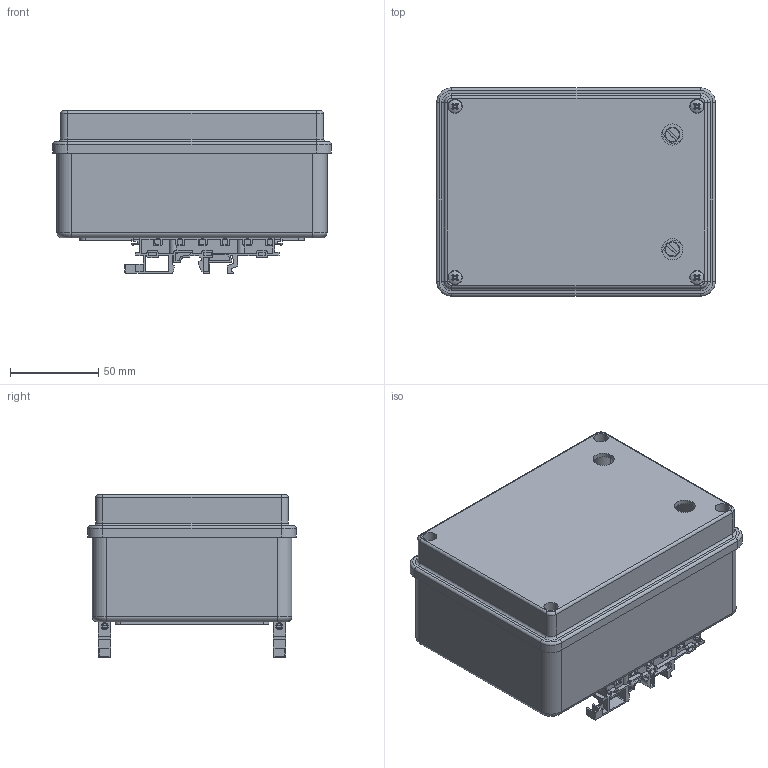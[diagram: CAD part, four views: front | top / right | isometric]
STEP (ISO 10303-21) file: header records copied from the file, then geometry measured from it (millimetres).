
FILE_DESCRIPTION(/* description */ (''),/* implementation_level */ '2;1');
FILE_NAME(/* name */ 'K:\PROJEKTY ROZPRACOVANÉ\Modely do katalogu\PI-L\3D - STEP\PI-L120.stp',/* time_stamp */ '2017-01-02T08:26:05+01:00',/* author */ ('admin'),/* organization */ (''),/* preprocessor_version */ 'ST-DEVELOPER v16.1',/* originating_system */ 'Autodesk Inventor 2016',/* authorisation */ '');
FILE_SCHEMA (('AUTOMOTIVE_DESIGN { 1 0 10303 214 3 1 1 }'));
Length unit declared in the file: millimetre
Products named in the file (6): SPODNÍ KRABIČKA GEWISS; VÍKO GEWISS; ISO 1207 - M5 x 8DIN EN ISO; ISO 7049 - ST4,2 x 25 - F - ZDIN ISO; NOŽIČKA AF 76; PI-L120
Assembly tree (10 placements, depth 2):
  PI-L120
    SPODNÍ KRABIČKA GEWISS
    VÍKO GEWISS
    ISO 1207 - M5 x 8DIN EN ISO  x2
    ISO 7049 - ST4,2 x 25 - F - ZDIN ISO  x4
    NOŽIČKA AF 76  x2
Bounding box: 158 x 118 x 92 mm (x, y, z)
Volume: 189231.7 mm3; surface area: 178409.3 mm2
Topology: 10 solids, 10 shells, 2007 faces, 5334 edges, 3412 vertices
Faces by surface type: plane 921, cylinder 824, bspline 96, cone 74, torus 72, sphere 20
Full cylindrical faces by diameter (mm): 1.9 x4, 2 x6, 2.8 x4, 2.9 x24, 3 x4, 3.2 x4, 4 x8, 4.2 x4, 4.51 x2, 5 x2, 7 x4, 8 x4, 12 x2, 15 x2, 16 x4, 18 x4
Entity records: 43930 total; most frequent: CARTESIAN_POINT 11209, DIRECTION 7035, ORIENTED_EDGE 6632, EDGE_CURVE 3316, AXIS2_PLACEMENT_3D 2572, VERTEX_POINT 2121, LINE 1891, VECTOR 1891
